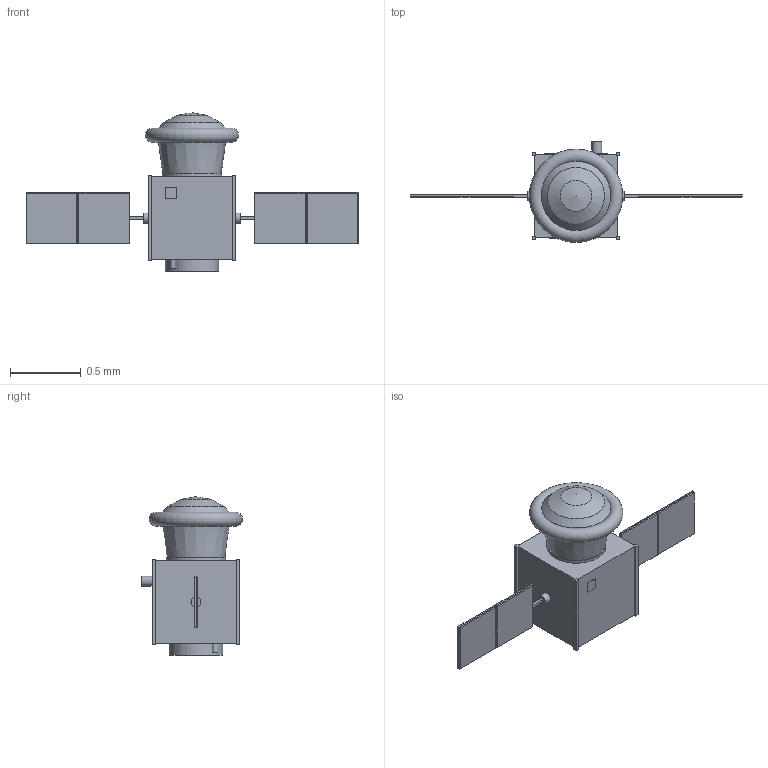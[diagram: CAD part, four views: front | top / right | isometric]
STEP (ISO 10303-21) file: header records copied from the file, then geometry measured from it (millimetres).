
FILE_DESCRIPTION(('Open CASCADE Model'),'2;1');
FILE_NAME('Open CASCADE Shape Model','2026-10-04T09:01:27',('Author'),( 'Open CASCADE'),'Open CASCADE STEP processor 7.9','Open CASCADE 7.9' ,'Unknown');
FILE_SCHEMA(('AUTOMOTIVE_DESIGN { 1 0 10303 214 1 1 1 1 }'));
Length unit declared in the file: millimetre
Products named in the file (45): SP-ONC; capsule_backshell; nose; heat_shield_packed; sample_drawer; sample_cassette_1; sample_cassette_2; sample_cassette_3; optical_window; capsule_avionics_and_hold_battery; parachute_canister; recovery_beacon; separation_interface; service_module_structure; corner_rail_-X-Y; corner_rail_-X+Y; corner_rail_+X-Y; corner_rail_+X+Y; radiator_+Y_face; experiment_instruments_microscope_pumps_reservoirs; propellant_tank_LMP-103S; battery; on-board_computer_and_radios; reaction_wheel_1; reaction_wheel_2; reaction_wheel_3; magnetorquer_1; magnetorquer_2; star_tracker; S-band_antenna; 22_N_thruster_1; 22_N_thruster_2; launch_separation_ring; array_drive_-X; yoke_-X; solar_panel_-X1; panel_frame_-X1; solar_panel_-X2; panel_frame_-X2; array_drive_+X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
Assembly tree (44 placements, depth 2):
  SP-ONC
    capsule_backshell
    nose
    heat_shield_packed
    sample_drawer
    sample_cassette_1
    sample_cassette_2
    sample_cassette_3
    optical_window
    capsule_avionics_and_hold_battery
    parachute_canister
    recovery_beacon
    separation_interface
    service_module_structure
    corner_rail_-X-Y
    corner_rail_-X+Y
    corner_rail_+X-Y
    corner_rail_+X+Y
    radiator_+Y_face
    experiment_instruments_microscope_pumps_reservoirs
    propellant_tank_LMP-103S
    battery
    on-board_computer_and_radios
    reaction_wheel_1
    reaction_wheel_2
    reaction_wheel_3
    magnetorquer_1
    magnetorquer_2
    star_tracker
    S-band_antenna
    22_N_thruster_1
    22_N_thruster_2
    launch_separation_ring
    array_drive_-X
    yoke_-X
    solar_panel_-X1
    panel_frame_-X1
    solar_panel_-X2
    panel_frame_-X2
    array_drive_+X
    yoke_+X
    solar_panel_+X1
    panel_frame_+X1
    solar_panel_+X2
    panel_frame_+X2
Bounding box: 2.35 x 0.72 x 1.12 mm (x, y, z)
Volume: 0.3 mm3; surface area: 8.7 mm2
Topology: 44 solids, 44 shells, 209 faces, 374 edges, 248 vertices
Faces by surface type: plane 187, cylinder 16, cone 4, torus 1, sphere 1
Full cylindrical faces by diameter (mm): 0.024 x2, 0.04 x1, 0.045 x2, 0.07 x3, 0.09 x3, 0.14 x1, 0.341 x1, 0.381 x1, 0.423 x1, 0.491 x1
Entity records: 10875 total; most frequent: DIRECTION 1656, CARTESIAN_POINT 1611, LINE 1039, VECTOR 1039, ORIENTED_EDGE 740, PCURVE 740, DEFINITIONAL_REPRESENTATION 740, EDGE_CURVE 370
